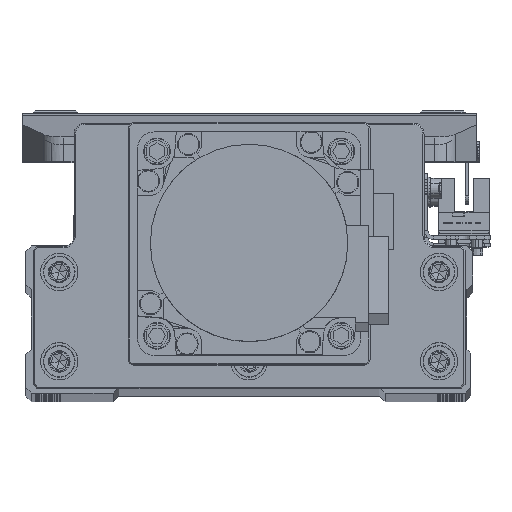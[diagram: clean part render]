
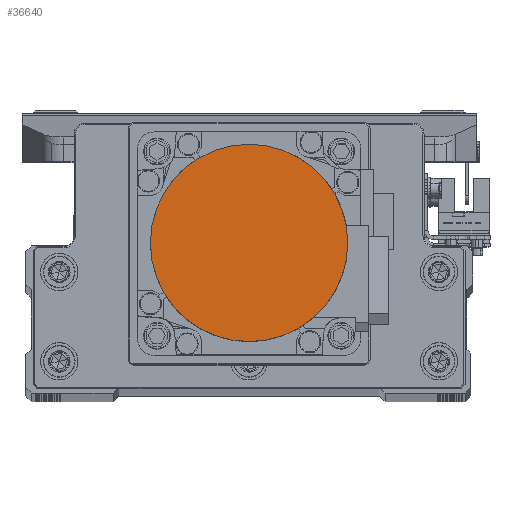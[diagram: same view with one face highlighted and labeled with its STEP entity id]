
A CAD part, top view. The second image highlights one B-rep face of the part: STEP entity #36640.
In plain terms, the highlighted planar face has unit normal (0, 0, 1) as drawn and (0, 0, -1) by its records, which use the part's own axes.
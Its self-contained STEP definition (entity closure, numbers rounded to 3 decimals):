
#1030 = DIRECTION ( 'NONE',  ( 1., 0., 0. ) ) ;
#1107 = EDGE_CURVE ( 'NONE', #14789, #16826, #33804, .T. ) ;
#1655 = CARTESIAN_POINT ( 'NONE',  ( 0., 0., -109.7 ) ) ;
#2108 = AXIS2_PLACEMENT_3D ( 'NONE', #1655, #16466, #31263 ) ;
#2310 = DIRECTION ( 'NONE',  ( 0., 0., 1. ) ) ;
#4668 = PLANE ( 'NONE',  #21954 ) ;
#14789 = VERTEX_POINT ( 'NONE', #17607 ) ;
#16466 = DIRECTION ( 'NONE',  ( 0., 0., 1. ) ) ;
#16826 = VERTEX_POINT ( 'NONE', #31872 ) ;
#17124 = DIRECTION ( 'NONE',  ( 1., 0., 0. ) ) ;
#17607 = CARTESIAN_POINT ( 'NONE',  ( 26.5, 0., -109.7 ) ) ;
#19480 = CARTESIAN_POINT ( 'NONE',  ( 0., 0., -109.7 ) ) ;
#21954 = AXIS2_PLACEMENT_3D ( 'NONE', #19480, #34269, #1030 ) ;
#23034 = CIRCLE ( 'NONE', #2108, 26.5 ) ;
#29642 = ORIENTED_EDGE ( 'NONE', *, *, #40271, .F. ) ;
#31263 = DIRECTION ( 'NONE',  ( -1., 0., 0. ) ) ;
#31377 = EDGE_LOOP ( 'NONE', ( #29642, #37848 ) ) ;
#31872 = CARTESIAN_POINT ( 'NONE',  ( -26.5, 0., -109.7 ) ) ;
#33776 = AXIS2_PLACEMENT_3D ( 'NONE', #35542, #2310, #17124 ) ;
#33804 = CIRCLE ( 'NONE', #33776, 26.5 ) ;
#34269 = DIRECTION ( 'NONE',  ( 0., 0., 1. ) ) ;
#35542 = CARTESIAN_POINT ( 'NONE',  ( 0., 0., -109.7 ) ) ;
#36640 = ADVANCED_FACE ( 'NONE', ( #37902 ), #4668, .F. ) ;
#37848 = ORIENTED_EDGE ( 'NONE', *, *, #1107, .F. ) ;
#37902 = FACE_OUTER_BOUND ( 'NONE', #31377, .T. ) ;
#40271 = EDGE_CURVE ( 'NONE', #16826, #14789, #23034, .T. ) ;
